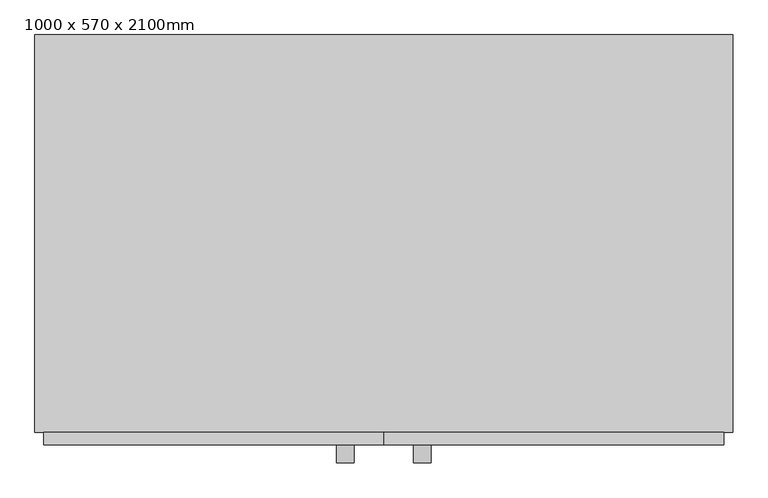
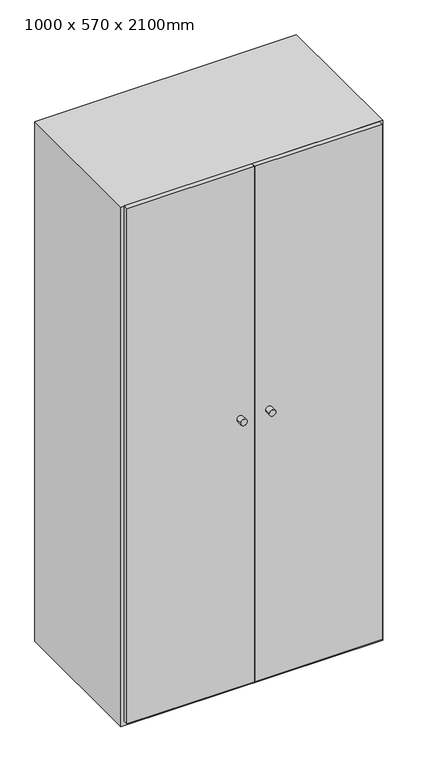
"""IFC4 building model written with IfcOpenShell, lengths in millimetres: furniture geometry, Armario dormitorio : 1000 x 570 x 2100mm."""

from ifc_helpers import new_model, si_unit, point, frame, frame_2d, origin, origin_with_axes, place, context, project, spatial, polyline, circle_curve, trimmed, segment, composite_curve, outline, extrude, source, transform, mapped, element, save


def furniture_1000_x_570_x_2100mm_c5bb6ddd(model_context):
    return source(origin(), model_context, "Body", "SweptSolid", [
        extrude(outline(composite_curve([segment(trimmed(circle_curve(frame_2d((1100.0, -55.0)), 12.5), [point((1100.0, -67.5))], [point((1100.0, -42.5))], False, "CARTESIAN"), True, "CONTINUOUS"), segment(trimmed(circle_curve(frame_2d((1100.0, -55.0)), 12.5), [point((1100.0, -42.5))], [point((1100.0, -67.5))], False, "CARTESIAN"), True, "CONTINUOUS")], self_intersect=False)), frame((0.0, -613.0, 0.0), z_axis=(0.0, 1.0, 0.0), x_axis=(0.0, 0.0, 1.0)), (0.0, 0.0, 1.0), 25.0),
        extrude(outline(composite_curve([segment(trimmed(circle_curve(frame_2d((1100.0, 55.0)), 12.5), [point((1100.0, 42.5))], [point((1100.0, 67.5))], False, "CARTESIAN"), True, "CONTINUOUS"), segment(trimmed(circle_curve(frame_2d((1100.0, 55.0)), 12.5), [point((1100.0, 67.5))], [point((1100.0, 42.5))], False, "CARTESIAN"), True, "CONTINUOUS")], self_intersect=False)), frame((0.0, -613.0, 0.0), z_axis=(0.0, 1.0, 0.0), x_axis=(0.0, 0.0, 1.0)), (0.0, 0.0, 1.0), 25.0),
        extrude(outline(polyline([(0.0, -570.0), (487.5, -570.0), (487.5, -588.0), (0.0, -588.0), (0.0, -570.0)])), frame((0.0, 0.0, 18.0), z_axis=(0.0, 0.0, 1.0), x_axis=(1.0, 0.0, 0.0)), (0.0, 0.0, 1.0), 2082.0),
        extrude(outline(polyline([(0.0, -570.0), (0.0, -588.0), (-487.5, -588.0), (-487.5, -570.0), (0.0, -570.0)])), frame((0.0, 0.0, 18.0), z_axis=(0.0, 0.0, 1.0), x_axis=(1.0, 0.0, 0.0)), (0.0, 0.0, 1.0), 2082.0),
        extrude(outline(polyline([(500.0, 0.0), (500.0, -570.0), (-500.0, -570.0), (-500.0, 0.0), (500.0, 0.0)])), origin_with_axes(), (0.0, 0.0, 1.0), 2100.0),
    ])


if __name__ == "__main__":
    model = new_model("IFC4")
    model_context = context("Model", 3, world=origin())
    ifc_project = project(units=[si_unit("LENGTHUNIT", "METRE", prefix="MILLI")], contexts=[model_context])
    site = spatial("IfcSite", under=ifc_project)
    building = spatial("IfcBuilding", under=site)
    placement = place(None, origin())
    furniture_1000_x_570_x_2100mm_shape = furniture_1000_x_570_x_2100mm_c5bb6ddd(model_context)
    element("IfcFurniture", 1, ObjectType="Armario dormitorio : 1000 x 570 x 2100mm", at=placement, inside=building, context=model_context, shape_type="MappedRepresentation", body=[
        mapped(furniture_1000_x_570_x_2100mm_shape, transform((0.0, 0.0, 0.0), x_axis=(1.0, 0.0, 0.0), y_axis=(0.0, 1.0, 0.0), z_axis=(0.0, 0.0, 1.0))),
    ])
    save(model, "model.ifc")
